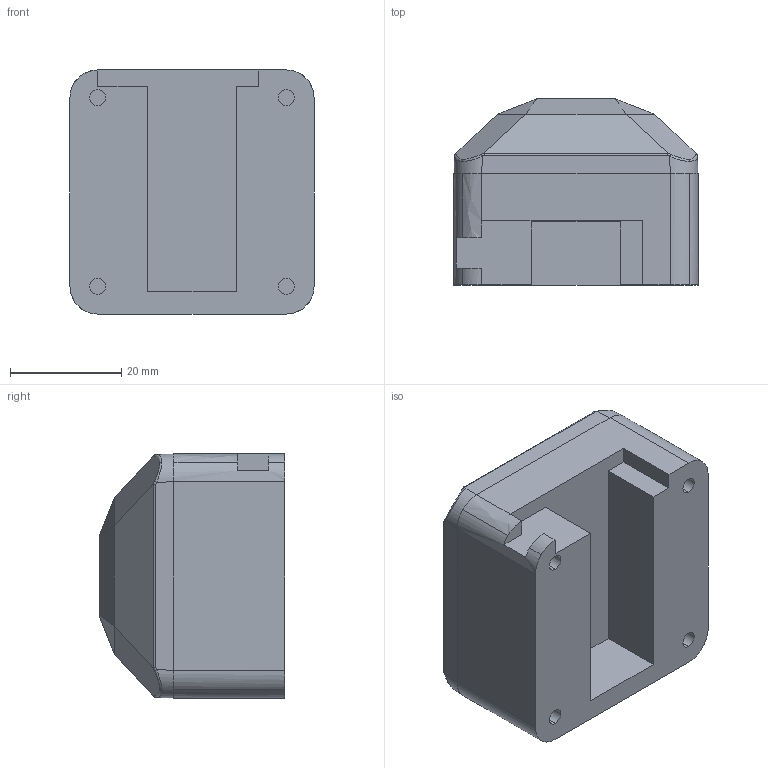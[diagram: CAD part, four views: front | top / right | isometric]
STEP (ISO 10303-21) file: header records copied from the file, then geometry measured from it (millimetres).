
FILE_DESCRIPTION (( 'STEP AP214' ), '1' );
FILE_NAME ('RoboMaster 隅弇耀輸 UW01 2020.STEP', '2025-06-28T07:15:47', ( '' ), ( '' ), 'SwSTEP 2.0', 'SolidWorks 2024', '' );
FILE_SCHEMA (( 'AUTOMOTIVE_DESIGN' ));
Length unit declared in the file: millimetre
Products named in the file (1): RoboMaster 定位模块 UW01 2020
Bounding box: 43.95 x 33.5 x 43.95 mm (x, y, z)
Volume: 42483.1 mm3; surface area: 12599.6 mm2
Topology: 1 solids, 6 shells, 201 faces, 512 edges, 328 vertices
Faces by surface type: plane 131, cylinder 48, bspline 22
Entity records: 6326 total; most frequent: CARTESIAN_POINT 1859, ORIENTED_EDGE 1024, DIRECTION 789, EDGE_CURVE 512, VECTOR 345, LINE 345, VERTEX_POINT 328, AXIS2_PLACEMENT_3D 222
